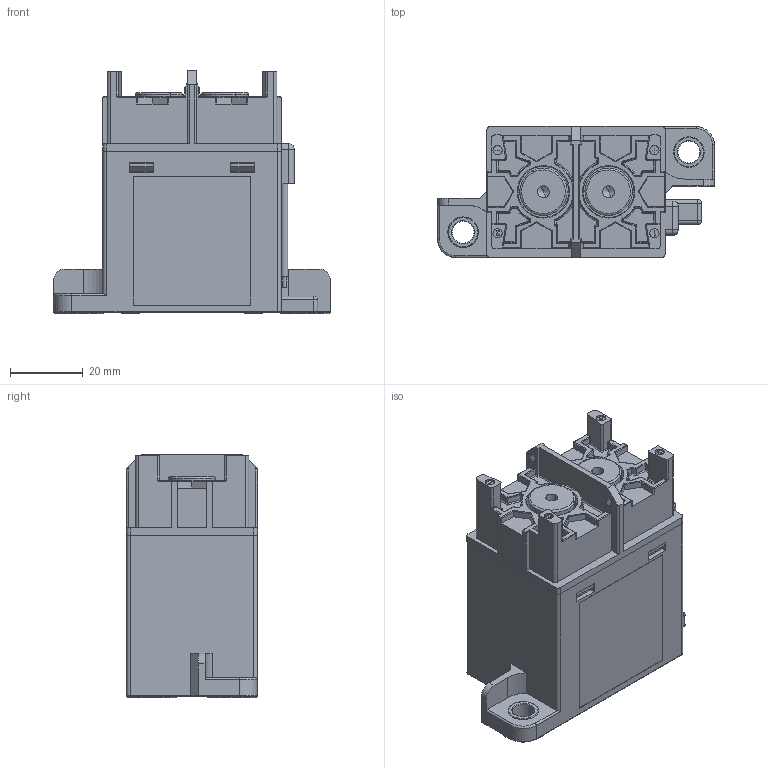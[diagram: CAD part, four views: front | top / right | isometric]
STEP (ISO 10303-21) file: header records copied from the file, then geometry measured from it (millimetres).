
FILE_DESCRIPTION (( 'STEP AP203' ), '1' );
FILE_NAME ('NDZ3AT-150D.STEP', '2021-09-23T10:32:02', ( '' ), ( '' ), 'SwSTEP 2.0', 'SolidWorks 2018', '' );
FILE_SCHEMA (( 'CONFIG_CONTROL_DESIGN' ));
Length unit declared in the file: millimetre
Products named in the file (17): 5LD.005.0076.STEP.STEP; 8LD.005.0219.STEP.STEP; 5LD.150.0006.STEP.STEP; 5LD.212.0001.STEP.STEP; 8LD.144.0001.STEP.STEP; 8LD.005.0209.STEP.STEP; ______.STEP.STEP; 5LD.130.0001.STEP.STEP; NDZ3AT-150DP.STEP.STEP; NDZ3AT-150DP.STEP; 8LD.150.0045.STEP.STEP; 8LD.742.0171.STEP.STEP; 8LD.150.0005.STEP.STEP; NDZ3AT-150D; 5LD.024.0152.STEP.STEP; ______-0.STEP.STEP; 8LD.568.0003.STEP.STEP
Assembly tree (19 placements, depth 7):
  NDZ3AT-150D
    NDZ3AT-150DP.STEP
      NDZ3AT-150DP.STEP.STEP
        5LD.005.0076.STEP.STEP
          8LD.005.0219.STEP.STEP
          8LD.144.0001.STEP.STEP  x2
        5LD.130.0001.STEP.STEP
          5LD.150.0006.STEP.STEP
            5LD.024.0152.STEP.STEP
              8LD.742.0171.STEP.STEP
              8LD.568.0003.STEP.STEP  x2
              8LD.150.0045.STEP.STEP
              8LD.150.0005.STEP.STEP  x2
        5LD.212.0001.STEP.STEP
          8LD.005.0209.STEP.STEP
        ______.STEP.STEP
        ______-0.STEP.STEP
Bounding box: 76 x 36 x 66.9 mm (x, y, z)
Volume: 32669.7 mm3; surface area: 39706.6 mm2
Topology: 12 solids, 12 shells, 1446 faces, 3719 edges, 2293 vertices
Faces by surface type: plane 662, cylinder 553, torus 138, bspline 61, cone 20, sphere 12
Entity records: 47309 total; most frequent: CARTESIAN_POINT 11697, ORIENTED_EDGE 7196, DIRECTION 6940, EDGE_CURVE 3598, VECTOR 2320, LINE 2320, AXIS2_PLACEMENT_3D 2310, VERTEX_POINT 2248
